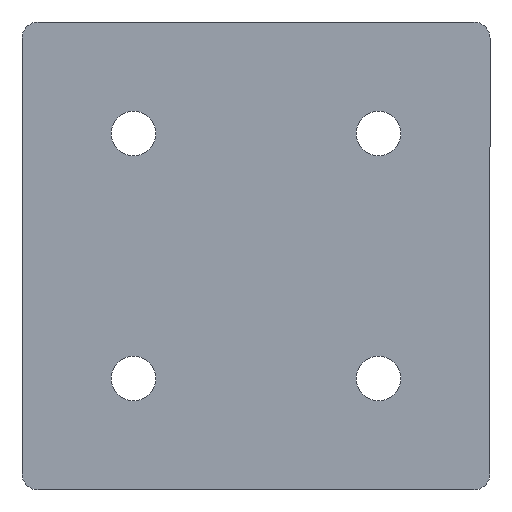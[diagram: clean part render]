
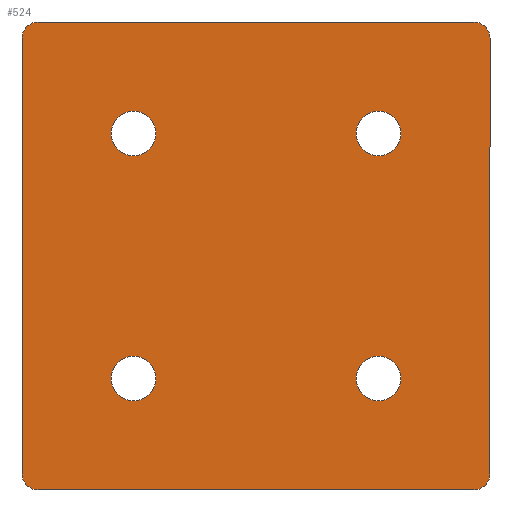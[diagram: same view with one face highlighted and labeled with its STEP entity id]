
A CAD part, front view. The second image highlights one B-rep face of the part: STEP entity #524.
In plain terms, the highlighted planar face has unit normal (0, -1, 0).
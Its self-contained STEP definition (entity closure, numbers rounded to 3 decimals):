
#2 = CARTESIAN_POINT ( 'NONE',  ( 22.5, 0., 40.9 ) ) ;
#4 = DIRECTION ( 'NONE',  ( 0., 1., 0. ) ) ;
#10 = DIRECTION ( 'NONE',  ( 0., 1., 0. ) ) ;
#12 = CIRCLE ( 'NONE', #187, 4.1 ) ;
#13 = CARTESIAN_POINT ( 'NONE',  ( 43., 0., -20.5 ) ) ;
#14 = CARTESIAN_POINT ( 'NONE',  ( -40., 0., 65.5 ) ) ;
#19 = FACE_BOUND ( 'NONE', #629, .T. ) ;
#26 = EDGE_CURVE ( 'NONE', #171, #519, #397, .T. ) ;
#30 = VERTEX_POINT ( 'NONE', #157 ) ;
#31 = ORIENTED_EDGE ( 'NONE', *, *, #418, .T. ) ;
#33 = DIRECTION ( 'NONE',  ( 0., -1., 0. ) ) ;
#35 = ORIENTED_EDGE ( 'NONE', *, *, #572, .F. ) ;
#39 = FACE_BOUND ( 'NONE', #392, .T. ) ;
#54 = VERTEX_POINT ( 'NONE', #460 ) ;
#55 = DIRECTION ( 'NONE',  ( 0., -1., 0. ) ) ;
#56 = EDGE_CURVE ( 'NONE', #62, #229, #661, .T. ) ;
#62 = VERTEX_POINT ( 'NONE', #98 ) ;
#63 = CARTESIAN_POINT ( 'NONE',  ( 40., 0., 65.5 ) ) ;
#71 = DIRECTION ( 'NONE',  ( 0., 0., 1. ) ) ;
#75 = VERTEX_POINT ( 'NONE', #316 ) ;
#77 = DIRECTION ( 'NONE',  ( 0., 0., 1. ) ) ;
#83 = ORIENTED_EDGE ( 'NONE', *, *, #593, .T. ) ;
#86 = EDGE_CURVE ( 'NONE', #30, #472, #647, .T. ) ;
#95 = DIRECTION ( 'NONE',  ( 0., -1., 0. ) ) ;
#98 = CARTESIAN_POINT ( 'NONE',  ( -22.5, 0., 49.1 ) ) ;
#105 = VECTOR ( 'NONE', #77, 1000. ) ;
#107 = CARTESIAN_POINT ( 'NONE',  ( -43., 0., 65.5 ) ) ;
#108 = EDGE_CURVE ( 'NONE', #30, #75, #177, .T. ) ;
#111 = DIRECTION ( 'NONE',  ( 0., 0., 1. ) ) ;
#114 = LINE ( 'NONE', #602, #559 ) ;
#115 = AXIS2_PLACEMENT_3D ( 'NONE', #463, #509, #155 ) ;
#119 = AXIS2_PLACEMENT_3D ( 'NONE', #471, #162, #266 ) ;
#122 = DIRECTION ( 'NONE',  ( 0., 1., 0. ) ) ;
#130 = CIRCLE ( 'NONE', #249, 3. ) ;
#133 = ORIENTED_EDGE ( 'NONE', *, *, #108, .T. ) ;
#134 = ORIENTED_EDGE ( 'NONE', *, *, #303, .T. ) ;
#151 = CARTESIAN_POINT ( 'NONE',  ( 43., 0., -17.5 ) ) ;
#155 = DIRECTION ( 'NONE',  ( 0., 0., -1. ) ) ;
#157 = CARTESIAN_POINT ( 'NONE',  ( -43., 0., -17.5 ) ) ;
#160 = DIRECTION ( 'NONE',  ( 1., 0., 0. ) ) ;
#162 = DIRECTION ( 'NONE',  ( 0., 1., 0. ) ) ;
#164 = CIRCLE ( 'NONE', #589, 4.1 ) ;
#168 = DIRECTION ( 'NONE',  ( 0., 1., 0. ) ) ;
#171 = VERTEX_POINT ( 'NONE', #445 ) ;
#177 = CIRCLE ( 'NONE', #551, 3. ) ;
#181 = CARTESIAN_POINT ( 'NONE',  ( -22.5, 0., 0. ) ) ;
#185 = DIRECTION ( 'NONE',  ( 0., 1., 0. ) ) ;
#187 = AXIS2_PLACEMENT_3D ( 'NONE', #264, #10, #375 ) ;
#189 = VERTEX_POINT ( 'NONE', #245 ) ;
#196 = AXIS2_PLACEMENT_3D ( 'NONE', #637, #168, #111 ) ;
#199 = CIRCLE ( 'NONE', #282, 4.1 ) ;
#202 = CARTESIAN_POINT ( 'NONE',  ( 22.5, 0., 45. ) ) ;
#210 = EDGE_CURVE ( 'NONE', #498, #457, #199, .T. ) ;
#212 = DIRECTION ( 'NONE',  ( 0., 0., -1. ) ) ;
#228 = DIRECTION ( 'NONE',  ( 0., 0., 1. ) ) ;
#229 = VERTEX_POINT ( 'NONE', #614 ) ;
#242 = CARTESIAN_POINT ( 'NONE',  ( 22.5, 0., -4.1 ) ) ;
#243 = CARTESIAN_POINT ( 'NONE',  ( -43., 0., -20.5 ) ) ;
#245 = CARTESIAN_POINT ( 'NONE',  ( -22.5, 0., 4.1 ) ) ;
#249 = AXIS2_PLACEMENT_3D ( 'NONE', #433, #279, #383 ) ;
#257 = CARTESIAN_POINT ( 'NONE',  ( -43., 0., 62.5 ) ) ;
#259 = VERTEX_POINT ( 'NONE', #338 ) ;
#260 = EDGE_LOOP ( 'NONE', ( #668, #306 ) ) ;
#264 = CARTESIAN_POINT ( 'NONE',  ( 22.5, 0., 0. ) ) ;
#266 = DIRECTION ( 'NONE',  ( 0., 0., 1. ) ) ;
#270 = FACE_BOUND ( 'NONE', #260, .T. ) ;
#277 = EDGE_CURVE ( 'NONE', #259, #189, #164, .T. ) ;
#279 = DIRECTION ( 'NONE',  ( 0., -1., 0. ) ) ;
#282 = AXIS2_PLACEMENT_3D ( 'NONE', #202, #358, #455 ) ;
#284 = CARTESIAN_POINT ( 'NONE',  ( 43., 0., 62.5 ) ) ;
#291 = ORIENTED_EDGE ( 'NONE', *, *, #382, .F. ) ;
#300 = AXIS2_PLACEMENT_3D ( 'NONE', #635, #55, #422 ) ;
#303 = EDGE_CURVE ( 'NONE', #591, #456, #130, .T. ) ;
#306 = ORIENTED_EDGE ( 'NONE', *, *, #372, .T. ) ;
#309 = EDGE_CURVE ( 'NONE', #229, #62, #670, .T. ) ;
#316 = CARTESIAN_POINT ( 'NONE',  ( -40., 0., -20.5 ) ) ;
#322 = DIRECTION ( 'NONE',  ( -1., 0., 0. ) ) ;
#336 = VERTEX_POINT ( 'NONE', #14 ) ;
#338 = CARTESIAN_POINT ( 'NONE',  ( -22.5, 0., -4.1 ) ) ;
#352 = ORIENTED_EDGE ( 'NONE', *, *, #86, .F. ) ;
#358 = DIRECTION ( 'NONE',  ( 0., 1., 0. ) ) ;
#359 = ORIENTED_EDGE ( 'NONE', *, *, #210, .T. ) ;
#362 = CARTESIAN_POINT ( 'NONE',  ( 22.5, 0., 49.1 ) ) ;
#364 = CARTESIAN_POINT ( 'NONE',  ( -22.5, 0., 45. ) ) ;
#370 = EDGE_LOOP ( 'NONE', ( #615, #412 ) ) ;
#372 = EDGE_CURVE ( 'NONE', #644, #54, #610, .T. ) ;
#375 = DIRECTION ( 'NONE',  ( 0., 0., 1. ) ) ;
#382 = EDGE_CURVE ( 'NONE', #171, #75, #605, .T. ) ;
#383 = DIRECTION ( 'NONE',  ( 0., 0., -1. ) ) ;
#386 = DIRECTION ( 'NONE',  ( 0., 1., 0. ) ) ;
#391 = DIRECTION ( 'NONE',  ( 0., 0., -1. ) ) ;
#392 = EDGE_LOOP ( 'NONE', ( #396, #611 ) ) ;
#394 = ORIENTED_EDGE ( 'NONE', *, *, #402, .F. ) ;
#395 = CARTESIAN_POINT ( 'NONE',  ( -40., 0., -17.5 ) ) ;
#396 = ORIENTED_EDGE ( 'NONE', *, *, #56, .T. ) ;
#397 = CIRCLE ( 'NONE', #407, 3. ) ;
#402 = EDGE_CURVE ( 'NONE', #336, #456, #531, .T. ) ;
#407 = AXIS2_PLACEMENT_3D ( 'NONE', #465, #95, #212 ) ;
#412 = ORIENTED_EDGE ( 'NONE', *, *, #277, .T. ) ;
#418 = EDGE_CURVE ( 'NONE', #336, #472, #606, .T. ) ;
#422 = DIRECTION ( 'NONE',  ( 0., 0., -1. ) ) ;
#432 = FACE_OUTER_BOUND ( 'NONE', #642, .T. ) ;
#433 = CARTESIAN_POINT ( 'NONE',  ( 40., 0., 62.5 ) ) ;
#441 = DIRECTION ( 'NONE',  ( 0., 0., 1. ) ) ;
#445 = CARTESIAN_POINT ( 'NONE',  ( 40., 0., -20.5 ) ) ;
#448 = CIRCLE ( 'NONE', #119, 4.1 ) ;
#453 = AXIS2_PLACEMENT_3D ( 'NONE', #494, #185, #71 ) ;
#455 = DIRECTION ( 'NONE',  ( 0., 0., 1. ) ) ;
#456 = VERTEX_POINT ( 'NONE', #63 ) ;
#457 = VERTEX_POINT ( 'NONE', #362 ) ;
#458 = PLANE ( 'NONE',  #115 ) ;
#460 = CARTESIAN_POINT ( 'NONE',  ( 22.5, 0., 4.1 ) ) ;
#463 = CARTESIAN_POINT ( 'NONE',  ( 0., 0., 0. ) ) ;
#465 = CARTESIAN_POINT ( 'NONE',  ( 40., 0., -17.5 ) ) ;
#471 = CARTESIAN_POINT ( 'NONE',  ( -22.5, 0., 0. ) ) ;
#472 = VERTEX_POINT ( 'NONE', #257 ) ;
#479 = CARTESIAN_POINT ( 'NONE',  ( -22.5, 0., 45. ) ) ;
#494 = CARTESIAN_POINT ( 'NONE',  ( 22.5, 0., 45. ) ) ;
#495 = FACE_BOUND ( 'NONE', #370, .T. ) ;
#498 = VERTEX_POINT ( 'NONE', #2 ) ;
#509 = DIRECTION ( 'NONE',  ( 0., -1., 0. ) ) ;
#510 = DIRECTION ( 'NONE',  ( 0., 0., 1. ) ) ;
#519 = VERTEX_POINT ( 'NONE', #151 ) ;
#524 = ADVANCED_FACE ( 'NONE', ( #19, #39, #270, #495, #432 ), #458, .T. ) ;
#531 = LINE ( 'NONE', #107, #636 ) ;
#536 = ORIENTED_EDGE ( 'NONE', *, *, #26, .T. ) ;
#549 = CIRCLE ( 'NONE', #453, 4.1 ) ;
#551 = AXIS2_PLACEMENT_3D ( 'NONE', #395, #33, #657 ) ;
#559 = VECTOR ( 'NONE', #391, 1000. ) ;
#560 = VECTOR ( 'NONE', #322, 1000. ) ;
#572 = EDGE_CURVE ( 'NONE', #591, #519, #114, .T. ) ;
#583 = AXIS2_PLACEMENT_3D ( 'NONE', #479, #122, #228 ) ;
#589 = AXIS2_PLACEMENT_3D ( 'NONE', #181, #386, #441 ) ;
#591 = VERTEX_POINT ( 'NONE', #284 ) ;
#593 = EDGE_CURVE ( 'NONE', #457, #498, #549, .T. ) ;
#602 = CARTESIAN_POINT ( 'NONE',  ( 43., 0., 65.5 ) ) ;
#605 = LINE ( 'NONE', #13, #560 ) ;
#606 = CIRCLE ( 'NONE', #300, 3. ) ;
#610 = CIRCLE ( 'NONE', #196, 4.1 ) ;
#611 = ORIENTED_EDGE ( 'NONE', *, *, #309, .T. ) ;
#614 = CARTESIAN_POINT ( 'NONE',  ( -22.5, 0., 40.9 ) ) ;
#615 = ORIENTED_EDGE ( 'NONE', *, *, #664, .T. ) ;
#629 = EDGE_LOOP ( 'NONE', ( #83, #359 ) ) ;
#635 = CARTESIAN_POINT ( 'NONE',  ( -40., 0., 62.5 ) ) ;
#636 = VECTOR ( 'NONE', #160, 1000. ) ;
#637 = CARTESIAN_POINT ( 'NONE',  ( 22.5, 0., 0. ) ) ;
#642 = EDGE_LOOP ( 'NONE', ( #35, #134, #394, #31, #352, #133, #291, #536 ) ) ;
#644 = VERTEX_POINT ( 'NONE', #242 ) ;
#647 = LINE ( 'NONE', #243, #105 ) ;
#655 = AXIS2_PLACEMENT_3D ( 'NONE', #364, #4, #510 ) ;
#657 = DIRECTION ( 'NONE',  ( 0., 0., -1. ) ) ;
#659 = EDGE_CURVE ( 'NONE', #54, #644, #12, .T. ) ;
#661 = CIRCLE ( 'NONE', #655, 4.1 ) ;
#664 = EDGE_CURVE ( 'NONE', #189, #259, #448, .T. ) ;
#668 = ORIENTED_EDGE ( 'NONE', *, *, #659, .T. ) ;
#670 = CIRCLE ( 'NONE', #583, 4.1 ) ;
